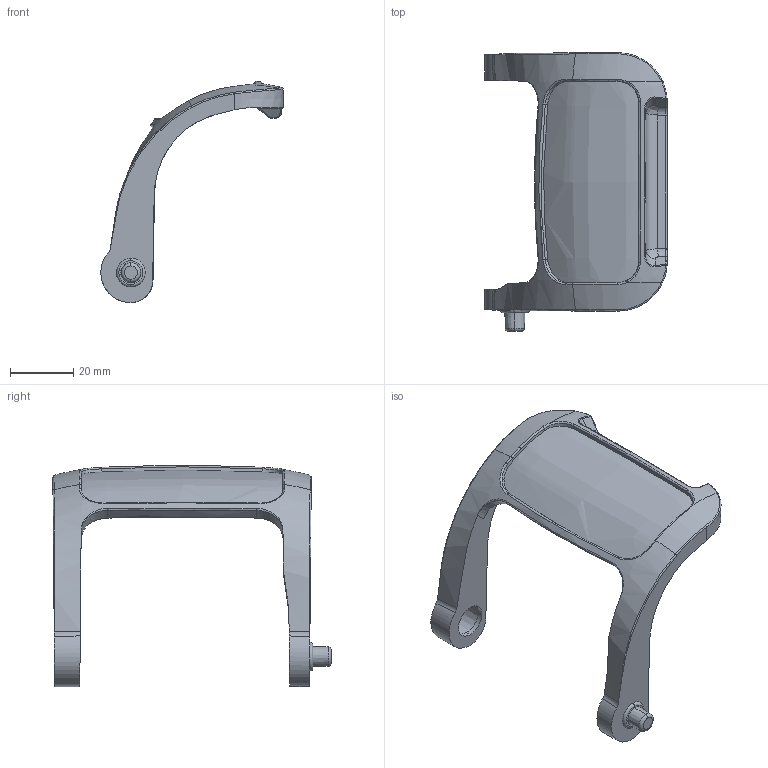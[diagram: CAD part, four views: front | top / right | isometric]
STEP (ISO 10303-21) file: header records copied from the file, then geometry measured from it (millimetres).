
FILE_DESCRIPTION (( 'STEP AP214' ), '1' );
FILE_NAME ('P-00102 - Valve Latch - v2.2.7_Default Configuration.STEP', '2026-06-12T21:53:13', ( '' ), ( '' ), 'SwSTEP 2.0', 'SolidWorks 2023', '' );
FILE_SCHEMA (( 'AUTOMOTIVE_DESIGN' ));
Length unit declared in the file: inch
Products named in the file (1): P-00102 - Valve Latch - v2.2.7_Default Configuration
Bounding box: 57.76 x 88.16 x 70.06 mm (x, y, z)
Volume: 21263 mm3; surface area: 13504 mm2
Topology: 1 solids, 1 shells, 148 faces, 369 edges, 220 vertices
Faces by surface type: bspline 81, plane 28, cylinder 27, cone 8, torus 4
Entity records: 14663 total; most frequent: CARTESIAN_POINT 11878, ORIENTED_EDGE 726, EDGE_CURVE 363, DIRECTION 356, VERTEX_POINT 220, B_SPLINE_CURVE_WITH_KNOTS 177, EDGE_LOOP 153, FACE_OUTER_BOUND 148
